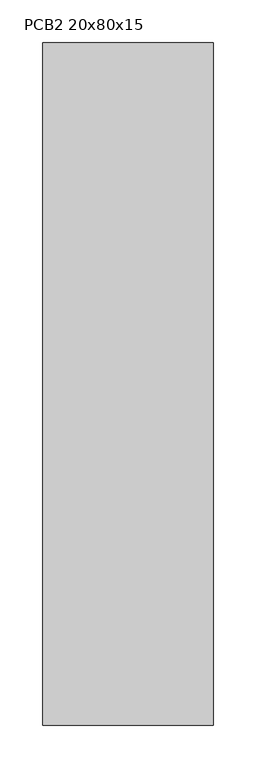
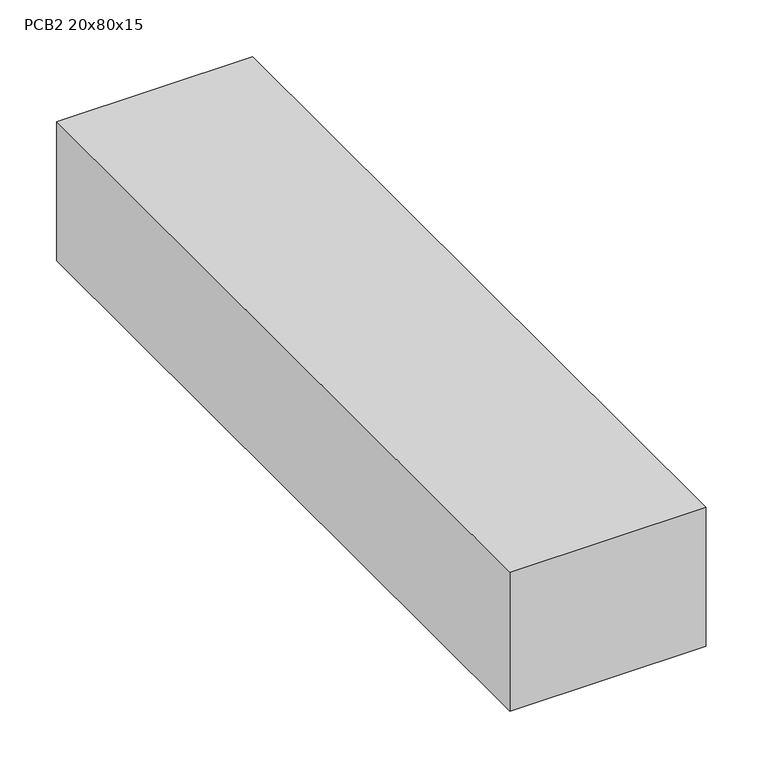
"""IFC4 building model written with IfcOpenShell, lengths in millimetres: proxy geometry, TABLERO ELECTRICO DE SUPERFICIE : PCB2 20x80x15."""

from ifc_helpers import new_model, si_unit, origin, origin_with_axes, place, context, project, spatial, polyline, outline, extrude, source, transform, mapped, element, save


def pcb2_20x80x15_229f86ee(model_context):
    return source(origin(), model_context, "Body", "SweptSolid", [
        extrude(outline(polyline([(100.0, 0.0), (-100.0, 0.0), (-100.0, 800.0), (100.0, 800.0), (100.0, 0.0)])), origin_with_axes(), (0.0, 0.0, 1.0), 150.0),
    ])


if __name__ == "__main__":
    model = new_model("IFC4")
    model_context = context("Model", 3, world=origin())
    ifc_project = project(units=[si_unit("LENGTHUNIT", "METRE", prefix="MILLI")], contexts=[model_context])
    site = spatial("IfcSite", under=ifc_project)
    building = spatial("IfcBuilding", under=site)
    placement = place(None, origin())
    pcb2_20x80x15_shape = pcb2_20x80x15_229f86ee(model_context)
    element("IfcBuildingElementProxy", 1, Name="TABLERO ELECTRICO DE SUPERFICIE : PCB2 20x80x15", ObjectType="TABLERO ELECTRICO DE SUPERFICIE : PCB2 20x80x15", at=placement, inside=building, context=model_context, shape_type="MappedRepresentation", body=[
        mapped(pcb2_20x80x15_shape, transform((0.0, 0.0, 0.0), x_axis=(1.0, 0.0, 0.0), y_axis=(0.0, 1.0, 0.0), z_axis=(0.0, 0.0, 1.0))),
    ])
    save(model, "model.ifc")
